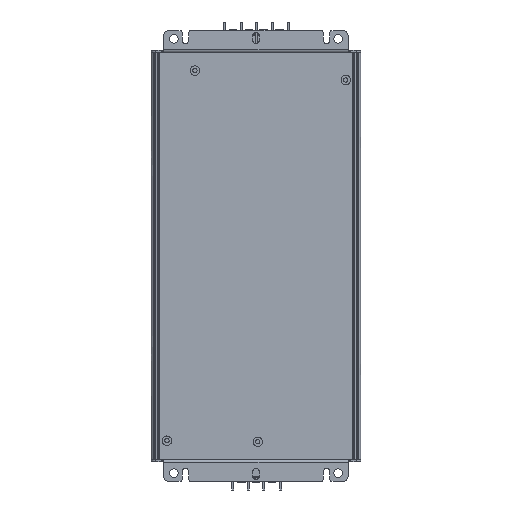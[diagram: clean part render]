
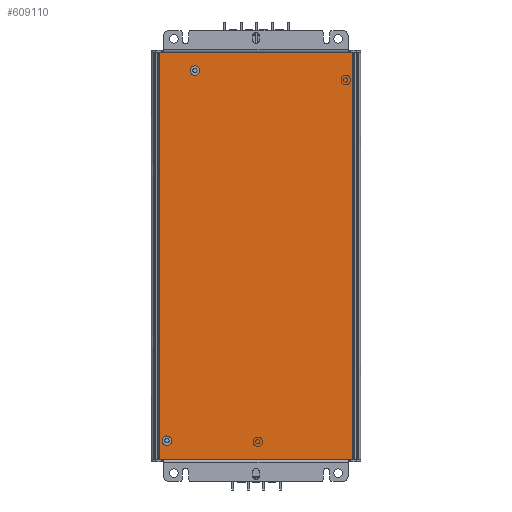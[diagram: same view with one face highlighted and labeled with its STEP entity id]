
A CAD part, front view. The second image highlights one B-rep face of the part: STEP entity #609110.
In plain terms, the highlighted planar face has unit normal (0, -1, 0).
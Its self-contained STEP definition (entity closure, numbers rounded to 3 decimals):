
#572410=CARTESIAN_POINT('',(1972.302,-2443.495,76.8));
#572420=VERTEX_POINT('',#572410);
#572450=CARTESIAN_POINT('',(2038.897,-2443.495,76.8));
#572460=DIRECTION('',(-1.,0.,0.));
#572470=VECTOR('',#572460,1.);
#572480=LINE('',#572450,#572470);
#572490=CARTESIAN_POINT('',(2105.492,-2443.495,76.8));
#572500=VERTEX_POINT('',#572490);
#572510=EDGE_CURVE('',#572500,#572420,#572480,.T.);
#585770=CARTESIAN_POINT('',(2105.492,-2443.495,356.8));
#585780=VERTEX_POINT('',#585770);
#585810=CARTESIAN_POINT('',(2038.897,-2443.495,356.8));
#585820=DIRECTION('',(-1.,0.,0.));
#585830=VECTOR('',#585820,1.);
#585840=LINE('',#585810,#585830);
#585850=CARTESIAN_POINT('',(1972.302,-2443.495,356.8));
#585860=VERTEX_POINT('',#585850);
#585870=EDGE_CURVE('',#585780,#585860,#585840,.T.);
#608840=CARTESIAN_POINT('',(2105.492,-2443.495,76.8));
#608850=DIRECTION('',(0.,0.,1.));
#608860=VECTOR('',#608850,1.);
#608870=LINE('',#608840,#608860);
#608880=EDGE_CURVE('',#572500,#585780,#608870,.T.);
#608950=CARTESIAN_POINT('',(1972.302,-2443.495,76.8));
#608960=DIRECTION('',(0.,1.,-0.));
#608970=DIRECTION('',(-1.,0.,0.));
#608980=AXIS2_PLACEMENT_3D('',#608950,#608960,#608970);
#608990=PLANE('',#608980);
#609000=ORIENTED_EDGE('',*,*,#572510,.F.);
#609010=CARTESIAN_POINT('',(1972.302,-2443.495,76.8));
#609020=DIRECTION('',(0.,0.,1.));
#609030=VECTOR('',#609020,1.);
#609040=LINE('',#609010,#609030);
#609050=EDGE_CURVE('',#572420,#585860,#609040,.T.);
#609060=ORIENTED_EDGE('',*,*,#609050,.F.);
#609070=ORIENTED_EDGE('',*,*,#585870,.T.);
#609080=ORIENTED_EDGE('',*,*,#608880,.T.);
#609090=EDGE_LOOP('',(#609080,#609070,#609060,#609000));
#609100=FACE_OUTER_BOUND('',#609090,.T.);
#609110=ADVANCED_FACE('',(#609100),#608990,.F.);
